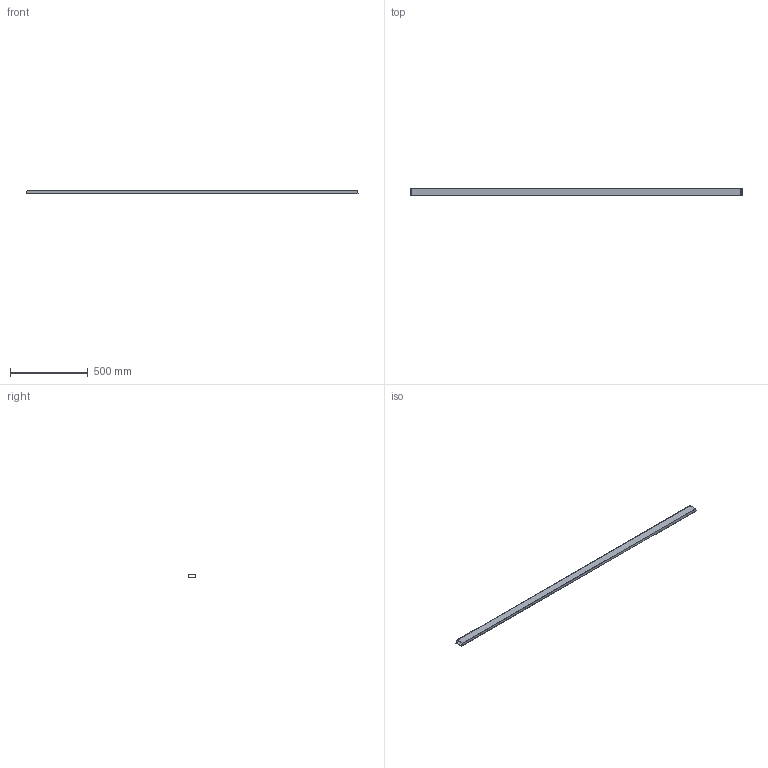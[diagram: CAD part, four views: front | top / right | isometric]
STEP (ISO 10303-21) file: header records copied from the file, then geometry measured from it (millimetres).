
FILE_DESCRIPTION(/* description */ (''),/* implementation_level */ '2;1');
FILE_NAME(/* name */ 'Pos116-Koker 50x20x2 EN 10219-2-S235JRH-1st',/* time_stamp */ '2024-08-06T13:49:48+02:00',/* author */ (''),/* organization */ (''),/* preprocessor_version */ 'ST-DEVELOPER v16.5',/* originating_system */ 'HiCAD 2024 2901.2 Build 361',/* authorisation */ '');
FILE_SCHEMA (('AUTOMOTIVE_DESIGN { 1 0 10303 214 1 1 1 1 }'));
Length unit declared in the file: millimetre
Products named in the file (1): Pos116-Koker 50x20x2 EN 10219-2-S235JRH-1st
Bounding box: 2129.8 x 50 x 20 mm (x, y, z)
Volume: 560073.1 mm3; surface area: 560645.7 mm2
Topology: 1 solids, 1 shells, 10 faces, 24 edges, 16 vertices
Faces by surface type: plane 10
Entity records: 550 total; most frequent: CARTESIAN_POINT 50, PRESENTATION_STYLE_ASSIGNMENT 49, COLOUR_RGB 49, DRAUGHTING_PRE_DEFINED_CURVE_FONT 48, CURVE_STYLE 48, OVER_RIDING_STYLED_ITEM 48, ORIENTED_EDGE 48, DIRECTION 44
